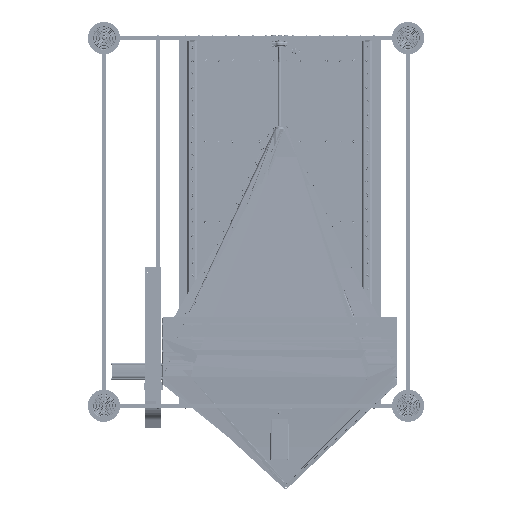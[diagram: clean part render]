
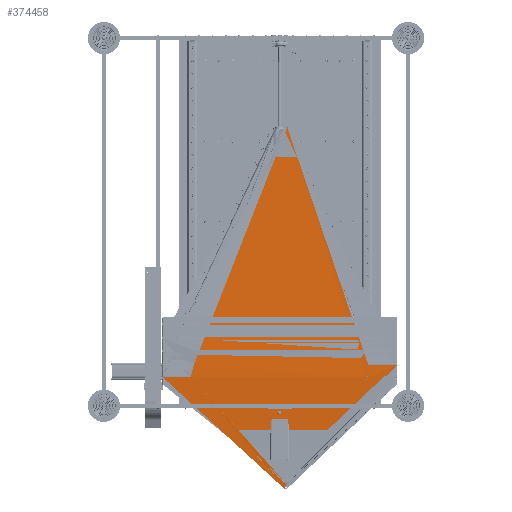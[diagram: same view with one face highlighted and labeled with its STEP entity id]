
A CAD part, front view. The second image highlights one B-rep face of the part: STEP entity #374458.
In plain terms, the highlighted planar face has unit normal (0, -1, 0).
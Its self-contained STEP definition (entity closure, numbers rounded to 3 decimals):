
#2464 = CIRCLE ( 'NONE', #89420, 0.3 ) ;
#15547 = CARTESIAN_POINT ( 'NONE',  ( 522.5, 52.1, -218.25 ) ) ;
#18840 = DIRECTION ( 'NONE',  ( 0., 0., -1. ) ) ;
#20070 = CIRCLE ( 'NONE', #270558, 29.45 ) ;
#22916 = DIRECTION ( 'NONE',  ( -1., 0., 0. ) ) ;
#24169 = PLANE ( 'NONE',  #307839 ) ;
#30613 = ORIENTED_EDGE ( 'NONE', *, *, #517371, .T. ) ;
#32082 = CARTESIAN_POINT ( 'NONE',  ( 523.5, 52.1, -218.25 ) ) ;
#38200 = DIRECTION ( 'NONE',  ( -1., 0., 0. ) ) ;
#48349 = VERTEX_POINT ( 'NONE', #132155 ) ;
#49161 = CARTESIAN_POINT ( 'NONE',  ( 117.036, 71.877, 666.8 ) ) ;
#54412 = CARTESIAN_POINT ( 'NONE',  ( 108.058, 78.339, -678.62 ) ) ;
#57513 = DIRECTION ( 'NONE',  ( 0., -1., 0. ) ) ;
#62491 = CARTESIAN_POINT ( 'NONE',  ( -346.5, 52.1, -261.75 ) ) ;
#63611 = AXIS2_PLACEMENT_3D ( 'NONE', #536609, #279748, #22916 ) ;
#71447 = EDGE_CURVE ( 'NONE', #253327, #398127, #553761, .T. ) ;
#85516 = VERTEX_POINT ( 'NONE', #149753 ) ;
#89420 = AXIS2_PLACEMENT_3D ( 'NONE', #173011, #473238, #216178 ) ;
#92336 = CARTESIAN_POINT ( 'NONE',  ( 107.992, 76.654, -678.387 ) ) ;
#94579 = VERTEX_POINT ( 'NONE', #54412 ) ;
#102926 = ORIENTED_EDGE ( 'NONE', *, *, #287293, .F. ) ;
#104356 = EDGE_CURVE ( 'NONE', #251086, #470771, #2464, .T. ) ;
#114673 = CARTESIAN_POINT ( 'NONE',  ( -242.044, 52.1, -261.75 ) ) ;
#114919 = CARTESIAN_POINT ( 'NONE',  ( 114.025, 78.282, -656.548 ) ) ;
#117178 = VERTEX_POINT ( 'NONE', #361131 ) ;
#118676 = VECTOR ( 'NONE', #357687, 1000. ) ;
#119186 = LINE ( 'NONE', #442119, #118676 ) ;
#121178 = CARTESIAN_POINT ( 'NONE',  ( 523.5, 52.1, -218.25 ) ) ;
#122591 = VERTEX_POINT ( 'NONE', #556650 ) ;
#123629 = AXIS2_PLACEMENT_3D ( 'NONE', #314502, #57513, #357589 ) ;
#127265 = CARTESIAN_POINT ( 'NONE',  ( 71.812, 65.055, 666.8 ) ) ;
#132155 = CARTESIAN_POINT ( 'NONE',  ( 107.946, 75.455, -678.62 ) ) ;
#133577 = CARTESIAN_POINT ( 'NONE',  ( 108.04, 77.869, -678.479 ) ) ;
#135437 = CARTESIAN_POINT ( 'NONE',  ( 107.964, 75.928, -678.491 ) ) ;
#147654 = VERTEX_POINT ( 'NONE', #114673 ) ;
#149753 = CARTESIAN_POINT ( 'NONE',  ( 103.675, 66.988, 661.6 ) ) ;
#152686 = VERTEX_POINT ( 'NONE', #162367 ) ;
#153458 = DIRECTION ( 'NONE',  ( 0., 0., 1. ) ) ;
#153788 = CARTESIAN_POINT ( 'NONE',  ( 114.146, 77.873, -656.257 ) ) ;
#154726 = ORIENTED_EDGE ( 'NONE', *, *, #399841, .T. ) ;
#156177 = CARTESIAN_POINT ( 'NONE',  ( 112.712, 73.71, -657.143 ) ) ;
#159495 = DIRECTION ( 'NONE',  ( -1., 0., 0. ) ) ;
#159511 = ORIENTED_EDGE ( 'NONE', *, *, #172930, .F. ) ;
#161792 = VERTEX_POINT ( 'NONE', #49161 ) ;
#162367 = CARTESIAN_POINT ( 'NONE',  ( 418.044, 52.1, -218.25 ) ) ;
#164325 = DIRECTION ( 'NONE',  ( -1., 0., 0. ) ) ;
#167409 = CARTESIAN_POINT ( 'NONE',  ( 523.5, 52.1, -261.75 ) ) ;
#170305 = DIRECTION ( 'NONE',  ( -1., 0., 0. ) ) ;
#172930 = EDGE_CURVE ( 'NONE', #161792, #209644, #20070, .T. ) ;
#173011 = CARTESIAN_POINT ( 'NONE',  ( 115.796, 83.082, 666.5 ) ) ;
#178526 = CARTESIAN_POINT ( 'NONE',  ( 107.946, 75.455, -678.62 ) ) ;
#179448 = ORIENTED_EDGE ( 'NONE', *, *, #478437, .F. ) ;
#191668 = CARTESIAN_POINT ( 'NONE',  ( 115.796, 83.082, 666.8 ) ) ;
#191901 = DIRECTION ( 'NONE',  ( 0., 0., 1. ) ) ;
#204994 = VECTOR ( 'NONE', #18840, 1000. ) ;
#207315 = LINE ( 'NONE', #532592, #204994 ) ;
#208713 = VERTEX_POINT ( 'NONE', #334871 ) ;
#209336 = CARTESIAN_POINT ( 'NONE',  ( -231.956, 52.1, -218.25 ) ) ;
#209644 = VERTEX_POINT ( 'NONE', #539853 ) ;
#216178 = DIRECTION ( 'NONE',  ( -0.257, -0.966, 0. ) ) ;
#219789 = CARTESIAN_POINT ( 'NONE',  ( 108.058, 78.339, -678.62 ) ) ;
#223693 = FACE_OUTER_BOUND ( 'NONE', #385221, .T. ) ;
#229303 = EDGE_CURVE ( 'NONE', #117178, #122591, #207315, .T. ) ;
#233856 = ORIENTED_EDGE ( 'NONE', *, *, #463942, .T. ) ;
#240473 = EDGE_CURVE ( 'NONE', #249965, #272539, #431945, .T. ) ;
#249965 = VERTEX_POINT ( 'NONE', #333337 ) ;
#251086 = VERTEX_POINT ( 'NONE', #191668 ) ;
#251166 = CARTESIAN_POINT ( 'NONE',  ( 115.873, 83.372, 666.5 ) ) ;
#253327 = VERTEX_POINT ( 'NONE', #156177 ) ;
#254896 = ORIENTED_EDGE ( 'NONE', *, *, #303268, .T. ) ;
#270558 = AXIS2_PLACEMENT_3D ( 'NONE', #448957, #191901, #492078 ) ;
#272539 = VERTEX_POINT ( 'NONE', #324727 ) ;
#279748 = DIRECTION ( 'NONE',  ( 0., 0., -1. ) ) ;
#281030 = CARTESIAN_POINT ( 'NONE',  ( 523.5, 52.1, -261.75 ) ) ;
#283817 = CARTESIAN_POINT ( 'NONE',  ( 113.838, 78.665, -656.846 ) ) ;
#285661 = CARTESIAN_POINT ( 'NONE',  ( 113.59, 79.012, -657.143 ) ) ;
#287293 = EDGE_CURVE ( 'NONE', #368587, #453740, #531012, .T. ) ;
#294109 = ORIENTED_EDGE ( 'NONE', *, *, #240473, .F. ) ;
#296389 = AXIS2_PLACEMENT_3D ( 'NONE', #127265, #427410, #170305 ) ;
#303060 = VERTEX_POINT ( 'NONE', #153788 ) ;
#303268 = EDGE_CURVE ( 'NONE', #208713, #303060, #415937, .T. ) ;
#307839 = AXIS2_PLACEMENT_3D ( 'NONE', #281030, #410465, #153458 ) ;
#314502 = CARTESIAN_POINT ( 'NONE',  ( 413., 52.1, -265. ) ) ;
#318904 = CARTESIAN_POINT ( 'NONE',  ( 115.873, 70.228, 661.6 ) ) ;
#324727 = CARTESIAN_POINT ( 'NONE',  ( 407.956, 52.1, -261.75 ) ) ;
#329684 = VERTEX_POINT ( 'NONE', #62491 ) ;
#333337 = CARTESIAN_POINT ( 'NONE',  ( 418.044, 52.1, -261.75 ) ) ;
#334225 = B_SPLINE_CURVE_WITH_KNOTS ( 'NONE', 3,
 ( #219789, #133577, #349309, #92336, #392448, #135437, #435537, #178526 ),
 .UNSPECIFIED., .F., .F.,
 ( 4, 2, 2, 4 ),
 ( 0., 0.001, 0.002, 0.003 ),
 .UNSPECIFIED. ) ;
#334871 = CARTESIAN_POINT ( 'NONE',  ( 113.59, 79.012, -657.143 ) ) ;
#335535 = ORIENTED_EDGE ( 'NONE', *, *, #229303, .T. ) ;
#345019 = LINE ( 'NONE', #32082, #347321 ) ;
#346607 = CARTESIAN_POINT ( 'NONE',  ( 72.402, 67.278, 666.8 ) ) ;
#347321 = VECTOR ( 'NONE', #159495, 1000. ) ;
#349309 = CARTESIAN_POINT ( 'NONE',  ( 108.021, 77.391, -678.388 ) ) ;
#357589 = DIRECTION ( 'NONE',  ( -1., 0., 0. ) ) ;
#357687 = DIRECTION ( 'NONE',  ( 0.966, 0.257, 0. ) ) ;
#361131 = CARTESIAN_POINT ( 'NONE',  ( 58.669, 81.774, 666.5 ) ) ;
#368587 = VERTEX_POINT ( 'NONE', #346607 ) ;
#374458 = ADVANCED_FACE ( 'NONE', ( #223693 ), #24169, .T. ) ;
#385221 = EDGE_LOOP ( 'NONE', ( #30613, #102926, #154726, #179448, #233856, #254896, #335535, #407218, #528188, #551611, #159511, #294109 ) ) ;
#392448 = CARTESIAN_POINT ( 'NONE',  ( 107.983, 76.409, -678.41 ) ) ;
#394305 = VERTEX_POINT ( 'NONE', #209336 ) ;
#398127 = VERTEX_POINT ( 'NONE', #552476 ) ;
#399841 = EDGE_CURVE ( 'NONE', #536289, #152686, #345019, .T. ) ;
#407218 = ORIENTED_EDGE ( 'NONE', *, *, #104356, .T. ) ;
#410465 = DIRECTION ( 'NONE',  ( 0., -1., 0. ) ) ;
#415027 = CARTESIAN_POINT ( 'NONE',  ( 114.146, 77.873, -656.257 ) ) ;
#415937 =( BOUNDED_CURVE ( )  B_SPLINE_CURVE ( 3, ( #285661, #283817, #114919, #415027 ),
 .UNSPECIFIED., .F., .T. ) 
 B_SPLINE_CURVE_WITH_KNOTS ( ( 4, 4 ),
 ( 1.473, 1.808 ),
 .UNSPECIFIED. ) 
 CURVE ( )  GEOMETRIC_REPRESENTATION_ITEM ( )  RATIONAL_B_SPLINE_CURVE ( ( 1., 0.991, 0.991, 1. ) ) 
 REPRESENTATION_ITEM ( '' )  );
#417585 = VERTEX_POINT ( 'NONE', #318904 ) ;
#425549 = VECTOR ( 'NONE', #38200, 1000. ) ;
#427410 = DIRECTION ( 'NONE',  ( 0., 0., -1. ) ) ;
#428181 = LINE ( 'NONE', #167409, #425549 ) ;
#431945 = CIRCLE ( 'NONE', #123629, 6. ) ;
#435101 = VERTEX_POINT ( 'NONE', #491607 ) ;
#435537 = CARTESIAN_POINT ( 'NONE',  ( 107.955, 75.69, -678.549 ) ) ;
#442119 = CARTESIAN_POINT ( 'NONE',  ( 117.086, 70.55, 661.6 ) ) ;
#448957 = CARTESIAN_POINT ( 'NONE',  ( 88., 76.8, 666.8 ) ) ;
#453740 = VERTEX_POINT ( 'NONE', #506841 ) ;
#463942 = EDGE_CURVE ( 'NONE', #435101, #394305, #540366, .T. ) ;
#470771 = VERTEX_POINT ( 'NONE', #251166 ) ;
#473238 = DIRECTION ( 'NONE',  ( -0.966, 0.257, 0. ) ) ;
#478437 = EDGE_CURVE ( 'NONE', #94579, #48349, #334225, .T. ) ;
#491607 = CARTESIAN_POINT ( 'NONE',  ( 407.956, 52.1, -218.25 ) ) ;
#492078 = DIRECTION ( 'NONE',  ( -1., 0., 0. ) ) ;
#506841 = CARTESIAN_POINT ( 'NONE',  ( 73.673, 66.406, 666.8 ) ) ;
#517371 = EDGE_CURVE ( 'NONE', #85516, #417585, #119186, .T. ) ;
#527952 = EDGE_CURVE ( 'NONE', #147654, #329684, #428181, .T. ) ;
#528188 = ORIENTED_EDGE ( 'NONE', *, *, #527952, .F. ) ;
#531012 = CIRCLE ( 'NONE', #296389, 2.3 ) ;
#532592 = CARTESIAN_POINT ( 'NONE',  ( 58.669, 81.774, 672.8 ) ) ;
#536289 = VERTEX_POINT ( 'NONE', #15547 ) ;
#536609 = CARTESIAN_POINT ( 'NONE',  ( 110.5, 76.8, -657.143 ) ) ;
#538253 = VECTOR ( 'NONE', #164325, 1000. ) ;
#539853 = CARTESIAN_POINT ( 'NONE',  ( 117.036, 81.723, 666.8 ) ) ;
#540366 = LINE ( 'NONE', #121178, #538253 ) ;
#551611 = ORIENTED_EDGE ( 'NONE', *, *, #71447, .F. ) ;
#552476 = CARTESIAN_POINT ( 'NONE',  ( 111.394, 73.107, -657.143 ) ) ;
#553761 = CIRCLE ( 'NONE', #63611, 3.8 ) ;
#556650 = CARTESIAN_POINT ( 'NONE',  ( 58.669, 81.774, 661.6 ) ) ;
